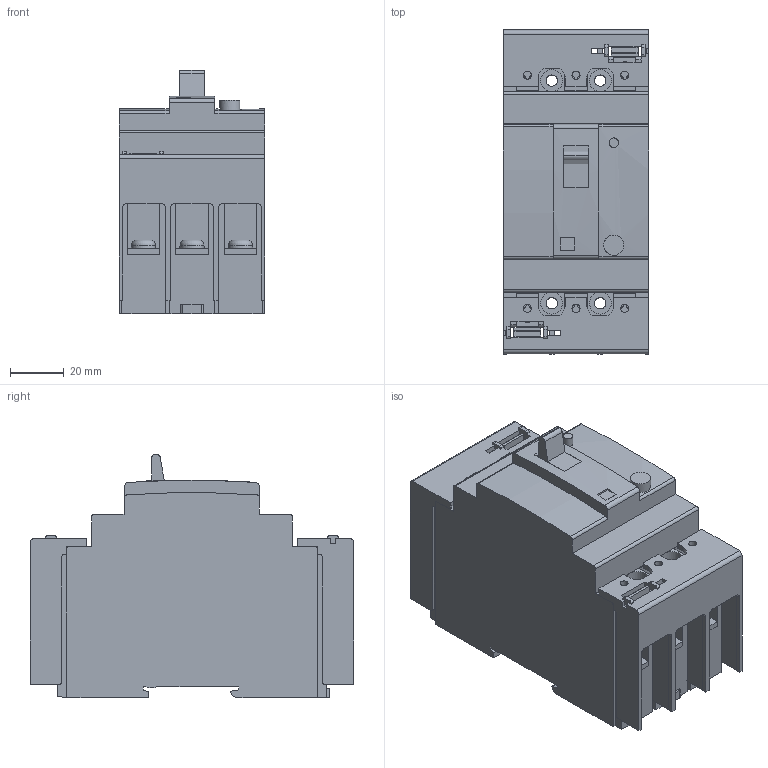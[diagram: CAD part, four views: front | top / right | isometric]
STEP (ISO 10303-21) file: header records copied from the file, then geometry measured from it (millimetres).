
FILE_DESCRIPTION (( 'STEP AP214' ), '1' );
FILE_NAME ('EW50RBGU-3P.STEP', '2015-01-27T06:41:43', ( '川崎工場' ), ( '富士電機株式会社' ), 'SwSTEP 2.0', 'SolidWorks 2014', '' );
FILE_SCHEMA (( 'AUTOMOTIVE_DESIGN' ));
Length unit declared in the file: millimetre
Products named in the file (8): Screw_M5_L14; EW50RBGU-3P_SWITCH_ON.; BW9BTBA-S3; EW50RBGU-3P_Terminal_Plate_Asm; EW50RBGU-3P_CASE; BW32SBG-2P_Terminal_Plate1; EW50RBGU-3P_Screw_Asm; EW50RBGU-3P
Assembly tree (18 placements, depth 3):
  EW50RBGU-3P
    EW50RBGU-3P_CASE
    EW50RBGU-3P_SWITCH_ON.
    EW50RBGU-3P_Screw_Asm
      Screw_M5_L14  x6
    EW50RBGU-3P_Terminal_Plate_Asm
      BW32SBG-2P_Terminal_Plate1  x6
    BW9BTBA-S3  x2
Bounding box: 54 x 120 x 90.2 mm (x, y, z)
Volume: 351473.6 mm3; surface area: 69788.7 mm2
Topology: 16 solids, 16 shells, 620 faces, 1746 edges, 1156 vertices
Faces by surface type: plane 447, cylinder 161, cone 6, torus 6
Full cylindrical faces by diameter (mm): 3 x6, 3.5 x1, 4.2 x4, 5 x6, 6 x6, 7.5 x1, 8.1 x4
Entity records: 11203 total; most frequent: CARTESIAN_POINT 2073, ORIENTED_EDGE 1858, DIRECTION 1807, EDGE_CURVE 929, LINE 729, VECTOR 729, VERTEX_POINT 625, AXIS2_PLACEMENT_3D 539
